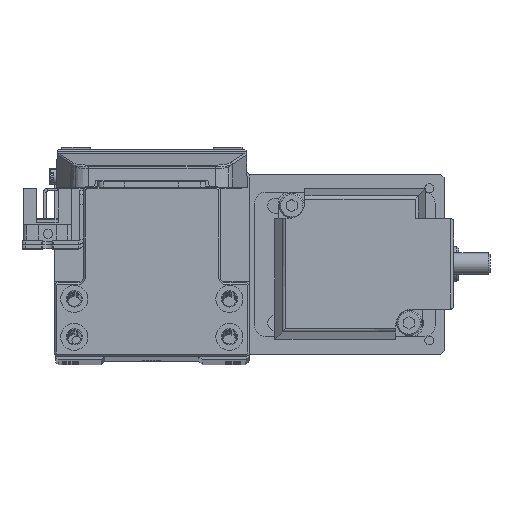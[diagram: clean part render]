
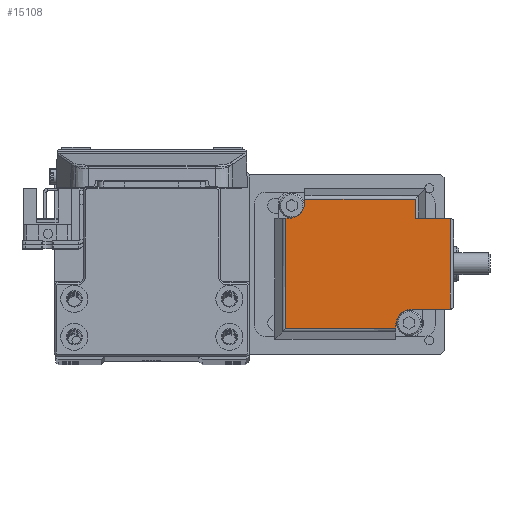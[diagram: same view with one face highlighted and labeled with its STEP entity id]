
A CAD part, top view. The second image highlights one B-rep face of the part: STEP entity #15108.
In plain terms, the highlighted planar face has unit normal (0, 0, 1) as drawn and (0, 1, 0) by its records, which use the part's own axes.
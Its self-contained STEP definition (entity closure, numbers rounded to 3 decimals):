
#234 = ORIENTED_EDGE ( 'NONE', *, *, #42705, .F. ) ;
#443 = DIRECTION ( 'NONE',  ( 0., -1., 0. ) ) ;
#1349 = VERTEX_POINT ( 'NONE', #7658 ) ;
#1481 = CARTESIAN_POINT ( 'NONE',  ( 12.6, 100.6, 25. ) ) ;
#2343 = EDGE_CURVE ( 'NONE', #29753, #6580, #16393, .T. ) ;
#2405 = CARTESIAN_POINT ( 'NONE',  ( 17.1, 100.6, 17.1 ) ) ;
#2920 = AXIS2_PLACEMENT_3D ( 'NONE', #47663, #28773, #32559 ) ;
#3228 = EDGE_CURVE ( 'NONE', #1349, #38966, #44306, .T. ) ;
#3476 = CARTESIAN_POINT ( 'NONE',  ( 17.929, 100.6, -12.6 ) ) ;
#3963 = EDGE_LOOP ( 'NONE', ( #5653, #7434, #18019, #7776, #40262, #43239, #234, #23172, #15451, #37578, #42419, #36548 ) ) ;
#5653 = ORIENTED_EDGE ( 'NONE', *, *, #31159, .T. ) ;
#5765 = VECTOR ( 'NONE', #43895, 1000. ) ;
#6253 = DIRECTION ( 'NONE',  ( 0., -1., 0. ) ) ;
#6580 = VERTEX_POINT ( 'NONE', #18302 ) ;
#6676 = CARTESIAN_POINT ( 'NONE',  ( 25., 100.6, 17.929 ) ) ;
#7434 = ORIENTED_EDGE ( 'NONE', *, *, #10401, .F. ) ;
#7658 = CARTESIAN_POINT ( 'NONE',  ( -17.929, 100.6, -12.6 ) ) ;
#7776 = ORIENTED_EDGE ( 'NONE', *, *, #28967, .F. ) ;
#9417 = VERTEX_POINT ( 'NONE', #3476 ) ;
#10401 = EDGE_CURVE ( 'NONE', #28626, #30933, #20861, .T. ) ;
#11051 = DIRECTION ( 'NONE',  ( 0., 0., -1. ) ) ;
#11784 = CARTESIAN_POINT ( 'NONE',  ( -12.6, 100.6, -17.1 ) ) ;
#11931 = VECTOR ( 'NONE', #21059, 1000. ) ;
#11943 = DIRECTION ( 'NONE',  ( 0., 0., -1. ) ) ;
#13319 = LINE ( 'NONE', #41443, #47206 ) ;
#13502 = LINE ( 'NONE', #25468, #5765 ) ;
#15108 = ADVANCED_FACE ( 'NONE', ( #43674 ), #38208, .F. ) ;
#15318 = CARTESIAN_POINT ( 'NONE',  ( -12.6, 100.6, 25. ) ) ;
#15451 = ORIENTED_EDGE ( 'NONE', *, *, #43166, .F. ) ;
#16001 = VECTOR ( 'NONE', #11051, 1000. ) ;
#16393 = LINE ( 'NONE', #1481, #38434 ) ;
#16888 = CARTESIAN_POINT ( 'NONE',  ( -17.1, 100.6, -12.6 ) ) ;
#18019 = ORIENTED_EDGE ( 'NONE', *, *, #48623, .F. ) ;
#18214 = DIRECTION ( 'NONE',  ( 0., 0., 1. ) ) ;
#18302 = CARTESIAN_POINT ( 'NONE',  ( 12.6, 100.6, 17.929 ) ) ;
#18876 = AXIS2_PLACEMENT_3D ( 'NONE', #42693, #443, #11943 ) ;
#19649 = CARTESIAN_POINT ( 'NONE',  ( 17.929, 100.6, -12.6 ) ) ;
#20442 = CARTESIAN_POINT ( 'NONE',  ( 17.929, 100.6, -12.6 ) ) ;
#20861 = LINE ( 'NONE', #36169, #11931 ) ;
#21059 = DIRECTION ( 'NONE',  ( 0., 0., 1. ) ) ;
#21076 = AXIS2_PLACEMENT_3D ( 'NONE', #2405, #6253, #18214 ) ;
#21233 = LINE ( 'NONE', #6676, #37279 ) ;
#22078 = EDGE_CURVE ( 'NONE', #29753, #46040, #24587, .T. ) ;
#22488 = DIRECTION ( 'NONE',  ( 1., 0., 0. ) ) ;
#23172 = ORIENTED_EDGE ( 'NONE', *, *, #3228, .F. ) ;
#23637 = DIRECTION ( 'NONE',  ( 1., 0., 0. ) ) ;
#24587 = CIRCLE ( 'NONE', #21076, 4.5 ) ;
#25468 = CARTESIAN_POINT ( 'NONE',  ( 17.929, 100.6, 25. ) ) ;
#25857 = EDGE_CURVE ( 'NONE', #26624, #48492, #30988, .T. ) ;
#25974 = CARTESIAN_POINT ( 'NONE',  ( -12.6, 100.6, -17.929 ) ) ;
#26317 = CARTESIAN_POINT ( 'NONE',  ( 17.929, 100.6, -17.929 ) ) ;
#26516 = VECTOR ( 'NONE', #43671, 1000. ) ;
#26624 = VERTEX_POINT ( 'NONE', #25974 ) ;
#27699 = VERTEX_POINT ( 'NONE', #11784 ) ;
#28626 = VERTEX_POINT ( 'NONE', #33320 ) ;
#28773 = DIRECTION ( 'NONE',  ( 0., 1., 0. ) ) ;
#28967 = EDGE_CURVE ( 'NONE', #48492, #9417, #13502, .T. ) ;
#29046 = EDGE_CURVE ( 'NONE', #6580, #48955, #21233, .T. ) ;
#29178 = CIRCLE ( 'NONE', #2920, 4.5 ) ;
#29753 = VERTEX_POINT ( 'NONE', #48832 ) ;
#30933 = VERTEX_POINT ( 'NONE', #48267 ) ;
#30988 = LINE ( 'NONE', #26317, #43455 ) ;
#31159 = EDGE_CURVE ( 'NONE', #46040, #30933, #13319, .T. ) ;
#31233 = EDGE_CURVE ( 'NONE', #27699, #26624, #31764, .T. ) ;
#31412 = DIRECTION ( 'NONE',  ( 0., 0., 1. ) ) ;
#31562 = VECTOR ( 'NONE', #23637, 1000. ) ;
#31764 = LINE ( 'NONE', #15318, #40663 ) ;
#32559 = DIRECTION ( 'NONE',  ( 0., 0., 1. ) ) ;
#33320 = CARTESIAN_POINT ( 'NONE',  ( 27.7, 100.6, -12.6 ) ) ;
#34303 = DIRECTION ( 'NONE',  ( 1., 0., 0. ) ) ;
#36169 = CARTESIAN_POINT ( 'NONE',  ( 27.7, 100.6, 25. ) ) ;
#36548 = ORIENTED_EDGE ( 'NONE', *, *, #22078, .T. ) ;
#37279 = VECTOR ( 'NONE', #40903, 1000. ) ;
#37578 = ORIENTED_EDGE ( 'NONE', *, *, #29046, .F. ) ;
#38208 = PLANE ( 'NONE',  #18876 ) ;
#38434 = VECTOR ( 'NONE', #31412, 1000. ) ;
#38966 = VERTEX_POINT ( 'NONE', #16888 ) ;
#39473 = CARTESIAN_POINT ( 'NONE',  ( 17.1, 100.6, 12.6 ) ) ;
#40262 = ORIENTED_EDGE ( 'NONE', *, *, #25857, .F. ) ;
#40663 = VECTOR ( 'NONE', #41947, 1000. ) ;
#40903 = DIRECTION ( 'NONE',  ( -1., 0., 0. ) ) ;
#41443 = CARTESIAN_POINT ( 'NONE',  ( 17.1, 100.6, 12.6 ) ) ;
#41947 = DIRECTION ( 'NONE',  ( 0., 0., -1. ) ) ;
#42419 = ORIENTED_EDGE ( 'NONE', *, *, #2343, .F. ) ;
#42693 = CARTESIAN_POINT ( 'NONE',  ( 17.929, 100.6, 25. ) ) ;
#42705 = EDGE_CURVE ( 'NONE', #38966, #27699, #29178, .T. ) ;
#42878 = LINE ( 'NONE', #19649, #31562 ) ;
#43166 = EDGE_CURVE ( 'NONE', #48955, #1349, #43970, .T. ) ;
#43239 = ORIENTED_EDGE ( 'NONE', *, *, #31233, .F. ) ;
#43455 = VECTOR ( 'NONE', #22488, 1000. ) ;
#43671 = DIRECTION ( 'NONE',  ( 1., 0., 0. ) ) ;
#43674 = FACE_OUTER_BOUND ( 'NONE', #3963, .T. ) ;
#43895 = DIRECTION ( 'NONE',  ( 0., 0., 1. ) ) ;
#43970 = LINE ( 'NONE', #48962, #16001 ) ;
#44306 = LINE ( 'NONE', #20442, #26516 ) ;
#45264 = CARTESIAN_POINT ( 'NONE',  ( 17.929, 100.6, -17.929 ) ) ;
#45635 = CARTESIAN_POINT ( 'NONE',  ( -17.929, 100.6, 17.929 ) ) ;
#46040 = VERTEX_POINT ( 'NONE', #39473 ) ;
#47206 = VECTOR ( 'NONE', #34303, 1000. ) ;
#47663 = CARTESIAN_POINT ( 'NONE',  ( -17.1, 100.6, -17.1 ) ) ;
#48267 = CARTESIAN_POINT ( 'NONE',  ( 27.7, 100.6, 12.6 ) ) ;
#48492 = VERTEX_POINT ( 'NONE', #45264 ) ;
#48623 = EDGE_CURVE ( 'NONE', #9417, #28626, #42878, .T. ) ;
#48832 = CARTESIAN_POINT ( 'NONE',  ( 12.6, 100.6, 17.1 ) ) ;
#48955 = VERTEX_POINT ( 'NONE', #45635 ) ;
#48962 = CARTESIAN_POINT ( 'NONE',  ( -17.929, 100.6, 25. ) ) ;
